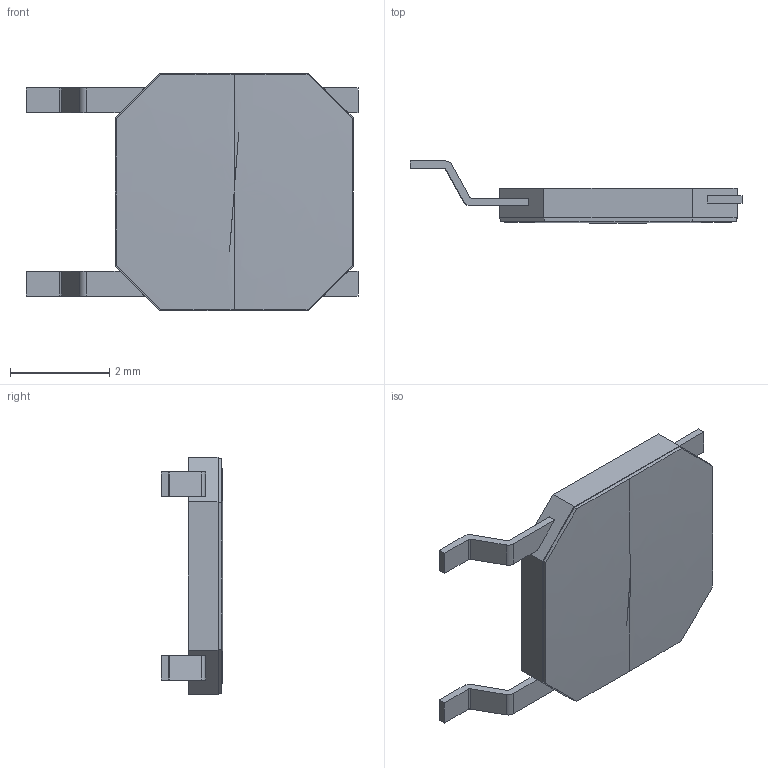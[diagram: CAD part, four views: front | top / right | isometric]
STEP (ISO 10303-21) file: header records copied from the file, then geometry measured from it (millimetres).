
FILE_DESCRIPTION((''),'2;1');
FILE_NAME('JQL4848-A0070-07EG-1-105_ASM','2026-07-03T15:48:29',('Admin'),(''),'CREO PARAMETRIC BY PTC INC, 2019224','CREO PARAMETRIC BY PTC INC, 2019224','');
FILE_SCHEMA(('AUTOMOTIVE_DESIGN { 1 0 10303 214 1 1 1 1 }'));
Length unit declared in the file: millimetre
Products named in the file (3): JQL4848-A0070-07EG-1-105_02; JQL4848-A0070-07EG-1-105_04; JQL4848-A0070-07EG-1-105_ASM
Assembly tree (2 placements, depth 2):
  JQL4848-A0070-07EG-1-105_ASM
    JQL4848-A0070-07EG-1-105_02
    JQL4848-A0070-07EG-1-105_04
Bounding box: 6.7 x 1.25 x 4.8 mm (x, y, z)
Volume: 11.7 mm3; surface area: 113.2 mm2
Topology: 2 solids, 2 shells, 86 faces, 234 edges, 156 vertices
Faces by surface type: plane 70, cylinder 12, revolution 2, sphere 2
Entity records: 4196 total; most frequent: CARTESIAN_POINT 595, ORIENTED_EDGE 456, DIRECTION 444, PRESENTATION_STYLE_ASSIGNMENT 279, STYLED_ITEM 235, CURVE_STYLE 233, EDGE_CURVE 228, VECTOR 184
